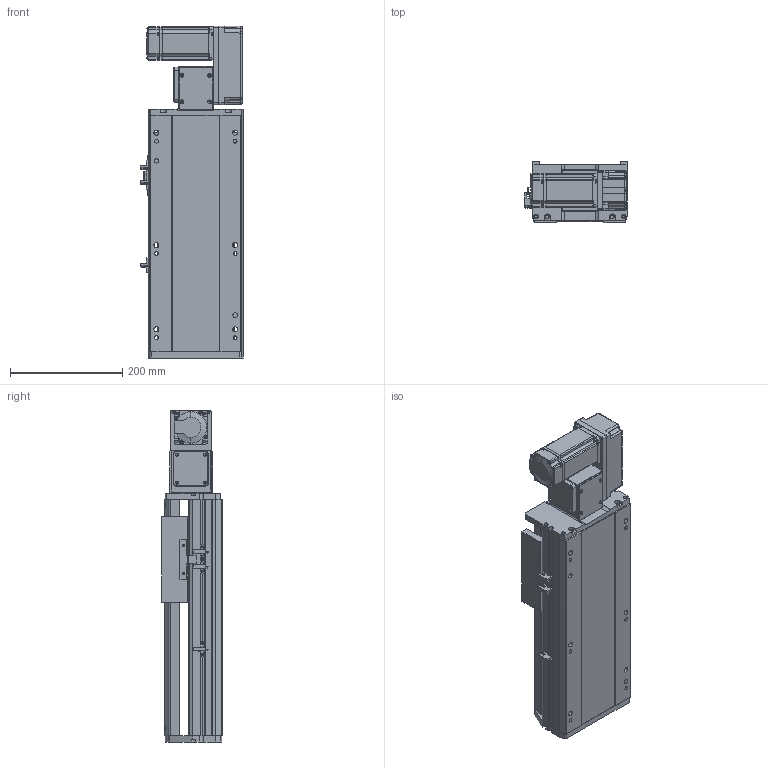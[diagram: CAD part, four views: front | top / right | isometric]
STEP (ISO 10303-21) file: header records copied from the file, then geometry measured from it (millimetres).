
FILE_DESCRIPTION (( 'STEP AP214' ), '1' );
FILE_NAME ('RTB17S-XX-150-R-M40-C4.STEP', '2025-12-11T07:30:58', ( '' ), ( '' ), 'SwSTEP 2.0', 'SolidWorks 2018', '' );
FILE_SCHEMA (( 'AUTOMOTIVE_DESIGN' ));
Length unit declared in the file: millimetre
Products named in the file (14): RTB14-L-017P^RTB17S-R-々湍釱蚾饜-400W_RTB17S-XX-XX-R-M40-C4; 400W侜督萇儂^RTB17S-XX-XX-R-M40-C4; RTB14-L-008-M20--萇儂啣^RTB17S-R-々湍釱蚾饜-400W_RTB17S-XX-XX-R-M40-C4; RTB14-L-018P^RTB17S-R-々湍釱蚾饜-400W_RTB17S-XX-XX-R-M40-C4; RTB17S-L-004佪裝蹟譫蟀諉釱^RTB17S-XX-XX-R-M40-C4; RTB17S-L-001耜醱啣^RTB17S-XX-XX-R-M40-C4; RTB17S-XX-150-R-M40-C4; RTB17S-L-014-T20--々湍釱^RTB17S-R-々湍釱蚾饜-400W_RTB17S-XX-XX-R-M40-C4; RTB17S-L-007奻裔^RTB17S-XX-XX-R-M40-C4; RTH13-BL-012覜茼え俋离^RTB17S-XX-XX-R-M40-C4; RTB14-L-005P--轴承塑胶压盖^RTB17S-R-皮带座装配-400W_RTB17S-XX-XX-R-M40-C4; OMRON EE-SX672 传感器^RTB17S-XX-XX-R-M40-C4; RTB17-R-011菁釱^RTB17S-XX-XX-R-M40-C4; RTB17S-R-々湍釱蚾饜-400W^RTB17S-XX-XX-R-M40-C4
Assembly tree (16 placements, depth 3):
  RTB17S-XX-150-R-M40-C4
    RTB17-R-011菁釱^RTB17S-XX-XX-R-M40-C4
    RTB17S-L-007奻裔^RTB17S-XX-XX-R-M40-C4
    OMRON EE-SX672 传感器^RTB17S-XX-XX-R-M40-C4  x3
    RTB17S-L-001耜醱啣^RTB17S-XX-XX-R-M40-C4
    400W侜督萇儂^RTB17S-XX-XX-R-M40-C4
    RTB17S-L-004佪裝蹟譫蟀諉釱^RTB17S-XX-XX-R-M40-C4
    RTH13-BL-012覜茼え俋离^RTB17S-XX-XX-R-M40-C4
    RTB17S-R-々湍釱蚾饜-400W^RTB17S-XX-XX-R-M40-C4
      RTB17S-L-014-T20--々湍釱^RTB17S-R-々湍釱蚾饜-400W_RTB17S-XX-XX-R-M40-C4
      RTB14-L-005P--轴承塑胶压盖^RTB17S-R-皮带座装配-400W_RTB17S-XX-XX-R-M40-C4
      RTB14-L-008-M20--萇儂啣^RTB17S-R-々湍釱蚾饜-400W_RTB17S-XX-XX-R-M40-C4
      RTB14-L-017P^RTB17S-R-々湍釱蚾饜-400W_RTB17S-XX-XX-R-M40-C4  x2
      RTB14-L-018P^RTB17S-R-々湍釱蚾饜-400W_RTB17S-XX-XX-R-M40-C4
Bounding box: 183.5 x 108 x 591 mm (x, y, z)
Volume: 5442698 mm3; surface area: 742167.2 mm2
Topology: 15 solids, 15 shells, 2141 faces, 5871 edges, 3825 vertices
Faces by surface type: plane 1060, cylinder 633, bspline 301, cone 139, torus 8
Entity records: 59561 total; most frequent: CARTESIAN_POINT 16476, ORIENTED_EDGE 8586, DIRECTION 8036, EDGE_CURVE 4293, VERTEX_POINT 2813, AXIS2_PLACEMENT_3D 2743, VECTOR 2550, LINE 2550
